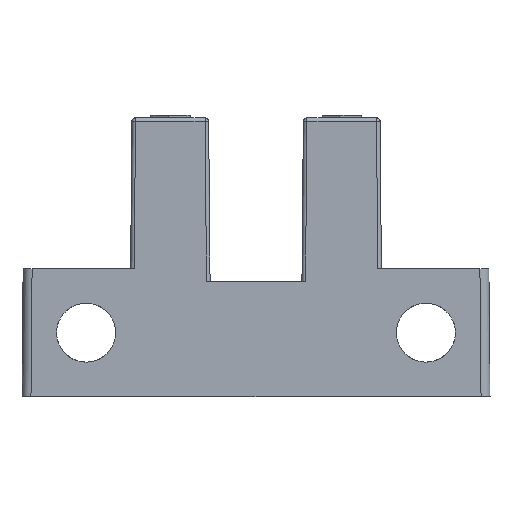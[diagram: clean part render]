
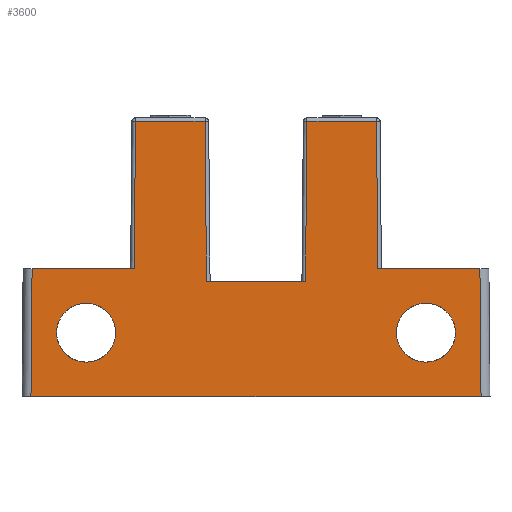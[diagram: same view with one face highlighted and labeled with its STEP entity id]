
A CAD part, left-side view. The second image highlights one B-rep face of the part: STEP entity #3600.
In plain terms, the highlighted planar face has unit normal (-1, 0, 0.006).
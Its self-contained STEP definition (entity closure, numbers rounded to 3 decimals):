
#959=DIRECTION('',(0.006,-0.009,1.));
#960=VECTOR('',#959,8.902);
#961=CARTESIAN_POINT('',(-3.19,25.099,6.45));
#962=LINE('',#961,#960);
#963=DIRECTION('',(-0.006,-0.009,-1.));
#964=VECTOR('',#963,8.202);
#965=CARTESIAN_POINT('',(-3.136,21.14,15.351));
#966=LINE('',#965,#964);
#967=DIRECTION('',(0.,-1.,0.));
#968=VECTOR('',#967,5.695);
#969=CARTESIAN_POINT('',(-3.186,21.069,7.15));
#970=LINE('',#969,#968);
#971=DIRECTION('',(-0.006,-0.009,-1.));
#972=VECTOR('',#971,7.15);
#973=CARTESIAN_POINT('',(-3.186,15.373,7.15));
#974=LINE('',#973,#972);
#975=DIRECTION('',(0.,1.,0.));
#976=VECTOR('',#975,25.1);
#977=CARTESIAN_POINT('',(-3.23,15.311,
0.));
#978=LINE('',#977,#976);
#979=DIRECTION('',(0.006,-0.009,1.));
#980=VECTOR('',#979,7.15);
#981=CARTESIAN_POINT('',(-3.23,40.411,
0.));
#982=LINE('',#981,#980);
#983=DIRECTION('',(0.006,-0.009,1.));
#984=VECTOR('',#983,8.202);
#985=CARTESIAN_POINT('',(-3.186,34.653,7.15));
#986=LINE('',#985,#984);
#987=DIRECTION('',(-0.006,-0.009,-1.));
#988=VECTOR('',#987,8.902);
#989=CARTESIAN_POINT('',(-3.136,30.7,15.351));
#990=LINE('',#989,#988);
#1053=DIRECTION('',(0.,1.,0.));
#1054=VECTOR('',#1053,3.881);
#1055=CARTESIAN_POINT('',(-3.136,21.14,15.351));
#1056=LINE('',#1055,#1054);
#1219=DIRECTION('',(0.,1.,0.));
#1220=VECTOR('',#1219,5.523);
#1221=CARTESIAN_POINT('',(-3.19,25.099,6.45));
#1222=LINE('',#1221,#1220);
#1313=DIRECTION('',(0.,1.,0.));
#1314=VECTOR('',#1313,3.881);
#1315=CARTESIAN_POINT('',(-3.136,30.7,15.351));
#1316=LINE('',#1315,#1314);
#1433=DIRECTION('',(0.,1.,0.));
#1434=VECTOR('',#1433,5.695);
#1435=CARTESIAN_POINT('',(-3.186,34.653,7.15));
#1436=LINE('',#1435,#1434);
#1479=CARTESIAN_POINT('',(-3.23,40.411,0.));
#1551=CARTESIAN_POINT('',(-3.198,37.336,5.22));
#1552=CARTESIAN_POINT('',(-3.198,37.142,5.22));
#1553=CARTESIAN_POINT('',(-3.198,36.723,5.15));
#1554=CARTESIAN_POINT('',(-3.201,36.138,4.772));
#1555=CARTESIAN_POINT('',(-3.204,35.824,4.286));
#1556=CARTESIAN_POINT('',(-3.206,35.708,3.872));
#1557=CARTESIAN_POINT('',(-3.208,35.682,3.575));
#1558=CARTESIAN_POINT('',(-3.21,35.708,3.278));
#1559=CARTESIAN_POINT('',(-3.212,35.824,2.864));
#1560=CARTESIAN_POINT('',(-3.215,36.138,2.378));
#1561=CARTESIAN_POINT('',(-3.218,36.723,2.));
#1562=CARTESIAN_POINT('',(-3.218,37.142,1.93));
#1563=CARTESIAN_POINT('',(-3.218,37.336,1.93));
#1569=CARTESIAN_POINT('',(-3.218,37.336,1.93));
#1570=CARTESIAN_POINT('',(-3.218,37.53,1.93));
#1571=CARTESIAN_POINT('',(-3.218,37.948,2.));
#1572=CARTESIAN_POINT('',(-3.215,38.533,2.378));
#1573=CARTESIAN_POINT('',(-3.212,38.847,2.864));
#1574=CARTESIAN_POINT('',(-3.21,38.963,3.278));
#1575=CARTESIAN_POINT('',(-3.208,38.989,3.575));
#1576=CARTESIAN_POINT('',(-3.206,38.963,3.872));
#1577=CARTESIAN_POINT('',(-3.204,38.847,4.286));
#1578=CARTESIAN_POINT('',(-3.201,38.533,4.772));
#1579=CARTESIAN_POINT('',(-3.198,37.948,5.15));
#1580=CARTESIAN_POINT('',(-3.198,37.53,5.22));
#1581=CARTESIAN_POINT('',(-3.198,37.336,5.22));
#1641=CARTESIAN_POINT('',(-3.218,18.386,1.93));
#1642=CARTESIAN_POINT('',(-3.218,18.58,1.93));
#1643=CARTESIAN_POINT('',(-3.218,18.998,2.));
#1644=CARTESIAN_POINT('',(-3.215,19.583,2.378));
#1645=CARTESIAN_POINT('',(-3.212,19.897,2.864));
#1646=CARTESIAN_POINT('',(-3.21,20.013,3.278));
#1647=CARTESIAN_POINT('',(-3.208,20.039,3.575));
#1648=CARTESIAN_POINT('',(-3.206,20.013,3.872));
#1649=CARTESIAN_POINT('',(-3.204,19.897,4.286));
#1650=CARTESIAN_POINT('',(-3.201,19.583,4.772));
#1651=CARTESIAN_POINT('',(-3.198,18.998,5.15));
#1652=CARTESIAN_POINT('',(-3.198,18.58,5.22));
#1653=CARTESIAN_POINT('',(-3.198,18.386,5.22));
#1659=CARTESIAN_POINT('',(-3.198,18.386,5.22));
#1660=CARTESIAN_POINT('',(-3.198,18.192,5.22));
#1661=CARTESIAN_POINT('',(-3.198,17.773,5.15));
#1662=CARTESIAN_POINT('',(-3.201,17.188,4.772));
#1663=CARTESIAN_POINT('',(-3.204,16.874,4.286));
#1664=CARTESIAN_POINT('',(-3.206,16.758,3.872));
#1665=CARTESIAN_POINT('',(-3.208,16.732,3.575));
#1666=CARTESIAN_POINT('',(-3.21,16.758,3.278));
#1667=CARTESIAN_POINT('',(-3.212,16.874,2.864));
#1668=CARTESIAN_POINT('',(-3.215,17.188,2.378));
#1669=CARTESIAN_POINT('',(-3.218,17.773,2.));
#1670=CARTESIAN_POINT('',(-3.218,18.192,1.93));
#1671=CARTESIAN_POINT('',(-3.218,18.386,1.93));
#2028=VERTEX_POINT('',#1479);
#2029=CARTESIAN_POINT('',(-3.23,15.311,
0.));
#2030=VERTEX_POINT('',#2029);
#2113=CARTESIAN_POINT('',(-3.198,37.336,5.22));
#2114=VERTEX_POINT('',#2113);
#2115=VERTEX_POINT('',#1563);
#2116=CARTESIAN_POINT('',(-3.19,25.099,6.45));
#2117=CARTESIAN_POINT('',(-3.136,25.021,15.351));
#2118=VERTEX_POINT('',#2116);
#2119=VERTEX_POINT('',#2117);
#2120=CARTESIAN_POINT('',(-3.136,21.14,15.351));
#2121=VERTEX_POINT('',#2120);
#2122=CARTESIAN_POINT('',(-3.186,21.069,7.15));
#2123=VERTEX_POINT('',#2122);
#2124=CARTESIAN_POINT('',(-3.186,15.373,7.15));
#2125=VERTEX_POINT('',#2124);
#2126=CARTESIAN_POINT('',(-3.186,40.348,7.15));
#2127=VERTEX_POINT('',#2126);
#2128=CARTESIAN_POINT('',(-3.186,34.653,7.15));
#2129=VERTEX_POINT('',#2128);
#2130=CARTESIAN_POINT('',(-3.136,34.581,15.351));
#2131=VERTEX_POINT('',#2130);
#2132=CARTESIAN_POINT('',(-3.136,30.7,15.351));
#2133=VERTEX_POINT('',#2132);
#2134=CARTESIAN_POINT('',(-3.19,30.622,6.45));
#2135=VERTEX_POINT('',#2134);
#2136=VERTEX_POINT('',#1641);
#2137=VERTEX_POINT('',#1653);
#3560=CARTESIAN_POINT('',(-3.23,41.406,0.));
#3561=DIRECTION('',(-1.,0.,0.006));
#3562=DIRECTION('',(0.,1.,0.));
#3563=AXIS2_PLACEMENT_3D('',#3560,#3561,#3562);
#3564=PLANE('',#3563);
#3566=ORIENTED_EDGE('',*,*,#3565,.T.);
#3568=ORIENTED_EDGE('',*,*,#3567,.F.);
#3570=ORIENTED_EDGE('',*,*,#3569,.T.);
#3571=ORIENTED_EDGE('',*,*,#3523,.T.);
#3572=ORIENTED_EDGE('',*,*,#3552,.T.);
#3573=ORIENTED_EDGE('',*,*,#2293,.T.);
#3575=ORIENTED_EDGE('',*,*,#3574,.T.);
#3577=ORIENTED_EDGE('',*,*,#3576,.F.);
#3579=ORIENTED_EDGE('',*,*,#3578,.T.);
#3581=ORIENTED_EDGE('',*,*,#3580,.F.);
#3583=ORIENTED_EDGE('',*,*,#3582,.T.);
#3585=ORIENTED_EDGE('',*,*,#3584,.F.);
#3586=EDGE_LOOP('',(#3566,#3568,#3570,#3571,#3572,#3573,#3575,#3577,#3579,#3581,
#3583,#3585));
#3587=FACE_OUTER_BOUND('',#3586,.F.);
#3589=ORIENTED_EDGE('',*,*,#3588,.F.);
#3591=ORIENTED_EDGE('',*,*,#3590,.F.);
#3592=EDGE_LOOP('',(#3589,#3591));
#3593=FACE_BOUND('',#3592,.F.);
#3595=ORIENTED_EDGE('',*,*,#3594,.F.);
#3597=ORIENTED_EDGE('',*,*,#3596,.F.);
#3598=EDGE_LOOP('',(#3595,#3597));
#3599=FACE_BOUND('',#3598,.F.);
#3600=ADVANCED_FACE('',(#3587,#3593,#3599),#3564,.T.);
#1564=B_SPLINE_CURVE_WITH_KNOTS('',3,(#1551,#1552,#1553,#1554,#1555,#1556,#1557,
#1558,#1559,#1560,#1561,#1562,#1563),.UNSPECIFIED.,.F.,.F.,(4,1,1,1,1,1,1,1,1,1,
4),(0.,0.125,0.25,0.375,0.438,0.5,0.563,0.625,0.75,0.875,
1.),.UNSPECIFIED.);
#1582=B_SPLINE_CURVE_WITH_KNOTS('',3,(#1569,#1570,#1571,#1572,#1573,#1574,#1575,
#1576,#1577,#1578,#1579,#1580,#1581),.UNSPECIFIED.,.F.,.F.,(4,1,1,1,1,1,1,1,1,1,
4),(0.,0.125,0.25,0.375,0.438,0.5,0.563,0.625,0.75,0.875,
1.),.UNSPECIFIED.);
#1654=B_SPLINE_CURVE_WITH_KNOTS('',3,(#1641,#1642,#1643,#1644,#1645,#1646,#1647,
#1648,#1649,#1650,#1651,#1652,#1653),.UNSPECIFIED.,.F.,.F.,(4,1,1,1,1,1,1,1,1,1,
4),(0.,0.125,0.25,0.375,0.438,0.5,0.563,0.625,0.75,0.875,
1.),.UNSPECIFIED.);
#1672=B_SPLINE_CURVE_WITH_KNOTS('',3,(#1659,#1660,#1661,#1662,#1663,#1664,#1665,
#1666,#1667,#1668,#1669,#1670,#1671),.UNSPECIFIED.,.F.,.F.,(4,1,1,1,1,1,1,1,1,1,
4),(0.,0.125,0.25,0.375,0.438,0.5,0.563,0.625,0.75,0.875,
1.),.UNSPECIFIED.);
#2293=EDGE_CURVE('',#2030,#2028,#978,.T.);
#3523=EDGE_CURVE('',#2123,#2125,#970,.T.);
#3552=EDGE_CURVE('',#2125,#2030,#974,.T.);
#3565=EDGE_CURVE('',#2118,#2119,#962,.T.);
#3567=EDGE_CURVE('',#2121,#2119,#1056,.T.);
#3569=EDGE_CURVE('',#2121,#2123,#966,.T.);
#3574=EDGE_CURVE('',#2028,#2127,#982,.T.);
#3576=EDGE_CURVE('',#2129,#2127,#1436,.T.);
#3578=EDGE_CURVE('',#2129,#2131,#986,.T.);
#3580=EDGE_CURVE('',#2133,#2131,#1316,.T.);
#3582=EDGE_CURVE('',#2133,#2135,#990,.T.);
#3584=EDGE_CURVE('',#2118,#2135,#1222,.T.);
#3588=EDGE_CURVE('',#2136,#2137,#1654,.T.);
#3590=EDGE_CURVE('',#2137,#2136,#1672,.T.);
#3594=EDGE_CURVE('',#2114,#2115,#1564,.T.);
#3596=EDGE_CURVE('',#2115,#2114,#1582,.T.);
